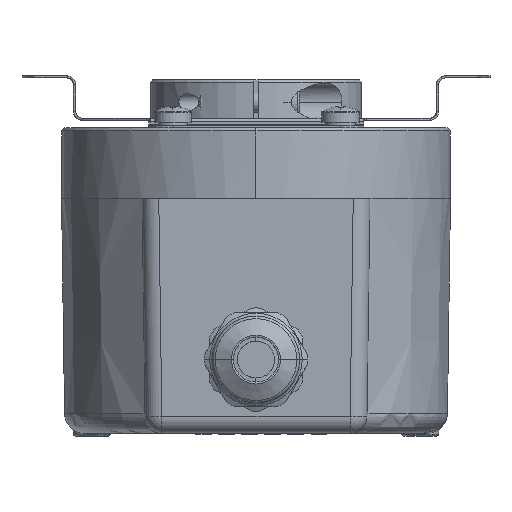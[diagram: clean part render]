
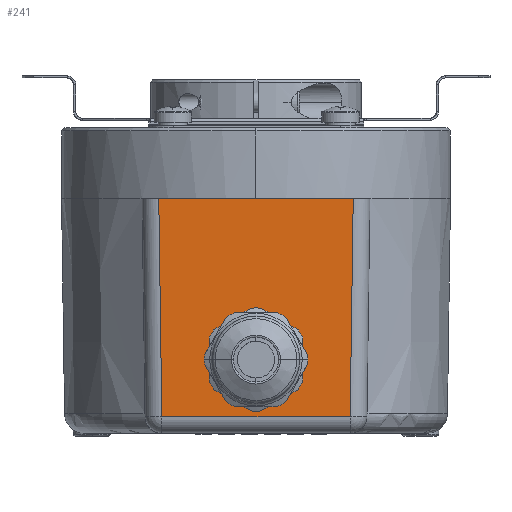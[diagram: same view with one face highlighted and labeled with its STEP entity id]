
A CAD part, front view. The second image highlights one B-rep face of the part: STEP entity #241.
In plain terms, the highlighted planar face has unit normal (0, -1, -0.014).
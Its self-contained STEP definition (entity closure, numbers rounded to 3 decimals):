
#172 = CARTESIAN_POINT ( 'NONE',  ( -14.5, -29., 7. ) ) ;
#241 = ADVANCED_FACE ( 'NONE', ( #6741, #20103 ), #1976, .T. ) ;
#338 = EDGE_CURVE ( 'NONE', #15341, #2698, #7982, .T. ) ;
#415 = CARTESIAN_POINT ( 'NONE',  ( 0., -28.745, -11.25 ) ) ;
#725 = EDGE_CURVE ( 'NONE', #7793, #6825, #6022, .T. ) ;
#866 = ORIENTED_EDGE ( 'NONE', *, *, #18692, .F. ) ;
#1256 = ORIENTED_EDGE ( 'NONE', *, *, #14614, .T. ) ;
#1379 =( BOUNDED_CURVE ( )  B_SPLINE_CURVE ( 3, ( #20683, #6002, #15705, #2764 ),
 .UNSPECIFIED., .F., .T. ) 
 B_SPLINE_CURVE_WITH_KNOTS ( ( 4, 4 ),
 ( 0., 3.142 ),
 .UNSPECIFIED. ) 
 CURVE ( )  GEOMETRIC_REPRESENTATION_ITEM ( )  RATIONAL_B_SPLINE_CURVE ( ( 1., 0.333, 0.333, 1. ) ) 
 REPRESENTATION_ITEM ( '' )  );
#1475 = CARTESIAN_POINT ( 'NONE',  ( -14.494, -28.994, 6.56 ) ) ;
#1567 = CARTESIAN_POINT ( 'NONE',  ( 17., -29., 7. ) ) ;
#1976 = PLANE ( 'NONE',  #20643 ) ;
#2084 = EDGE_LOOP ( 'NONE', ( #13199, #1256, #20427, #6127, #19641 ) ) ;
#2540 = VECTOR ( 'NONE', #12488, 1000. ) ;
#2648 = CARTESIAN_POINT ( 'NONE',  ( 0., -28.745, -11.25 ) ) ;
#2698 = VERTEX_POINT ( 'NONE', #3999 ) ;
#2764 = CARTESIAN_POINT ( 'NONE',  ( 0., -28.745, -11.25 ) ) ;
#3412 = EDGE_CURVE ( 'NONE', #12245, #15341, #12160, .T. ) ;
#3980 = ORIENTED_EDGE ( 'NONE', *, *, #16032, .F. ) ;
#3999 = CARTESIAN_POINT ( 'NONE',  ( 14.5, -29., 7. ) ) ;
#4369 = CARTESIAN_POINT ( 'NONE',  ( 0., -28.585, -22.75 ) ) ;
#5922 = CARTESIAN_POINT ( 'NONE',  ( 17., -29., 7. ) ) ;
#6002 = CARTESIAN_POINT ( 'NONE',  ( 11.5, -28.585, -22.75 ) ) ;
#6022 = LINE ( 'NONE', #5922, #2540 ) ;
#6096 = VERTEX_POINT ( 'NONE', #17677 ) ;
#6127 = ORIENTED_EDGE ( 'NONE', *, *, #338, .T. ) ;
#6612 = EDGE_LOOP ( 'NONE', ( #866, #3980 ) ) ;
#6703 = CARTESIAN_POINT ( 'NONE',  ( -14.046, -28.546, -25.535 ) ) ;
#6741 = FACE_OUTER_BOUND ( 'NONE', #2084, .T. ) ;
#6825 = VERTEX_POINT ( 'NONE', #15753 ) ;
#7763 = EDGE_CURVE ( 'NONE', #6825, #2698, #19584, .T. ) ;
#7793 = VERTEX_POINT ( 'NONE', #172 ) ;
#7982 = LINE ( 'NONE', #10493, #11000 ) ;
#8760 = DIRECTION ( 'NONE',  ( 0., -1., -0.014 ) ) ;
#9110 = CARTESIAN_POINT ( 'NONE',  ( -11.5, -28.585, -22.75 ) ) ;
#10282 = DIRECTION ( 'NONE',  ( 0., -0.014, 1. ) ) ;
#10381 = CARTESIAN_POINT ( 'NONE',  ( 14.046, -28.546, -25.535 ) ) ;
#10493 = CARTESIAN_POINT ( 'NONE',  ( 14.501, -29., 7.035 ) ) ;
#10737 = CARTESIAN_POINT ( 'NONE',  ( -11.5, -28.745, -11.25 ) ) ;
#10937 = VECTOR ( 'NONE', #16546, 1000. ) ;
#11000 = VECTOR ( 'NONE', #17065, 1000. ) ;
#11503 = DIRECTION ( 'NONE',  ( 0.014, 0.014, -1. ) ) ;
#12067 = VECTOR ( 'NONE', #11503, 1000. ) ;
#12160 = LINE ( 'NONE', #18756, #19102 ) ;
#12245 = VERTEX_POINT ( 'NONE', #6703 ) ;
#12488 = DIRECTION ( 'NONE',  ( 1., 0., 0. ) ) ;
#12738 = VERTEX_POINT ( 'NONE', #415 ) ;
#13199 = ORIENTED_EDGE ( 'NONE', *, *, #725, .F. ) ;
#13300 = CARTESIAN_POINT ( 'NONE',  ( 17., -29., 7. ) ) ;
#13900 =( BOUNDED_CURVE ( )  B_SPLINE_CURVE ( 3, ( #2648, #10737, #9110, #4369 ),
 .UNSPECIFIED., .F., .T. ) 
 B_SPLINE_CURVE_WITH_KNOTS ( ( 4, 4 ),
 ( 3.142, 6.283 ),
 .UNSPECIFIED. ) 
 CURVE ( )  GEOMETRIC_REPRESENTATION_ITEM ( )  RATIONAL_B_SPLINE_CURVE ( ( 1., 0.333, 0.333, 1. ) ) 
 REPRESENTATION_ITEM ( '' )  );
#14614 = EDGE_CURVE ( 'NONE', #7793, #12245, #16244, .T. ) ;
#15286 = DIRECTION ( 'NONE',  ( 1., 0., 0. ) ) ;
#15341 = VERTEX_POINT ( 'NONE', #10381 ) ;
#15705 = CARTESIAN_POINT ( 'NONE',  ( 11.5, -28.745, -11.25 ) ) ;
#15753 = CARTESIAN_POINT ( 'NONE',  ( 0., -29., 7. ) ) ;
#16032 = EDGE_CURVE ( 'NONE', #12738, #6096, #13900, .T. ) ;
#16244 = LINE ( 'NONE', #1475, #12067 ) ;
#16546 = DIRECTION ( 'NONE',  ( 1., 0., 0. ) ) ;
#17065 = DIRECTION ( 'NONE',  ( 0.014, -0.014, 1. ) ) ;
#17677 = CARTESIAN_POINT ( 'NONE',  ( 0., -28.585, -22.75 ) ) ;
#18692 = EDGE_CURVE ( 'NONE', #6096, #12738, #1379, .T. ) ;
#18756 = CARTESIAN_POINT ( 'NONE',  ( 17., -28.546, -25.535 ) ) ;
#19102 = VECTOR ( 'NONE', #15286, 1000. ) ;
#19584 = LINE ( 'NONE', #1567, #10937 ) ;
#19641 = ORIENTED_EDGE ( 'NONE', *, *, #7763, .F. ) ;
#20103 = FACE_BOUND ( 'NONE', #6612, .T. ) ;
#20427 = ORIENTED_EDGE ( 'NONE', *, *, #3412, .T. ) ;
#20643 = AXIS2_PLACEMENT_3D ( 'NONE', #13300, #8760, #10282 ) ;
#20683 = CARTESIAN_POINT ( 'NONE',  ( 0., -28.585, -22.75 ) ) ;
